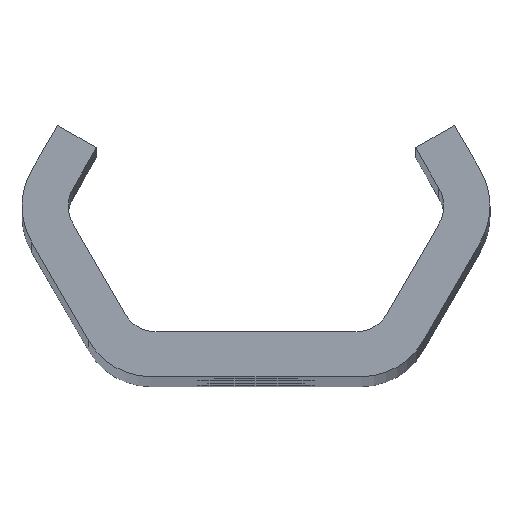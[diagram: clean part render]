
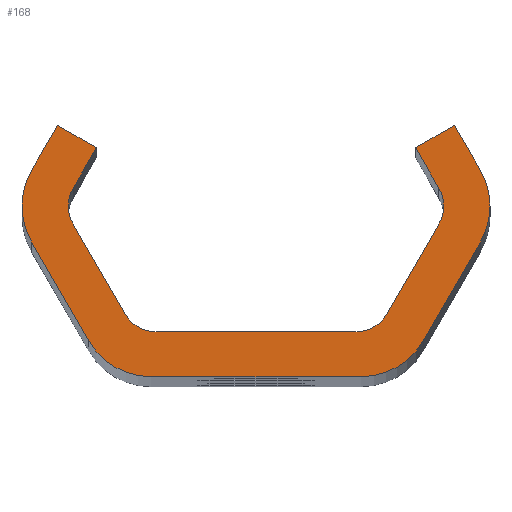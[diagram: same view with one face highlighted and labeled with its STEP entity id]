
A CAD part, top view. The second image highlights one B-rep face of the part: STEP entity #168.
In plain terms, the highlighted planar face has unit normal (0, 0, 1).
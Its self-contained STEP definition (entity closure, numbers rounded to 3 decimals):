
#168=ADVANCED_FACE('NONE',(#408),#409,.F.);
#408=FACE_OUTER_BOUND('',#1052,.T.);
#409=PLANE('',#1053);
#1052=EDGE_LOOP('',(#2046,#2047,#2048,#2049,#2050,#2051,#2052,#2053,#2054,#2055,#2056,#2057,#2058,#2059,#2060,#2061,#2062,#2063,#2064,#2065,#2066,#2067,#2068,#2069));
#1053=AXIS2_PLACEMENT_3D('',#2070,#2071,#2072);
#2046=ORIENTED_EDGE('',*,*,#2749,.T.);
#2047=ORIENTED_EDGE('',*,*,#2766,.T.);
#2048=ORIENTED_EDGE('',*,*,#2751,.T.);
#2049=ORIENTED_EDGE('',*,*,#2767,.T.);
#2050=ORIENTED_EDGE('',*,*,#2760,.F.);
#2051=ORIENTED_EDGE('',*,*,#2768,.T.);
#2052=ORIENTED_EDGE('',*,*,#2615,.T.);
#2053=ORIENTED_EDGE('',*,*,#2763,.F.);
#2054=ORIENTED_EDGE('',*,*,#2675,.F.);
#2055=ORIENTED_EDGE('',*,*,#2679,.F.);
#2056=ORIENTED_EDGE('',*,*,#2649,.T.);
#2057=ORIENTED_EDGE('',*,*,#2769,.T.);
#2058=ORIENTED_EDGE('',*,*,#2683,.F.);
#2059=ORIENTED_EDGE('',*,*,#2770,.T.);
#2060=ORIENTED_EDGE('',*,*,#2688,.F.);
#2061=ORIENTED_EDGE('',*,*,#2771,.T.);
#2062=ORIENTED_EDGE('',*,*,#2732,.T.);
#2063=ORIENTED_EDGE('',*,*,#2772,.T.);
#2064=ORIENTED_EDGE('',*,*,#2610,.T.);
#2065=ORIENTED_EDGE('',*,*,#2735,.T.);
#2066=ORIENTED_EDGE('',*,*,#2741,.T.);
#2067=ORIENTED_EDGE('',*,*,#2745,.T.);
#2068=ORIENTED_EDGE('',*,*,#2773,.T.);
#2069=ORIENTED_EDGE('',*,*,#2652,.T.);
#2070=CARTESIAN_POINT('',(0.0,0.0,320.0));
#2071=DIRECTION('',(0.0,0.0,-1.0));
#2072=DIRECTION('',(0.0,-1.0,0.0));
#2610=EDGE_CURVE('NONE',#2940,#2944,#2946,.T.);
#2615=EDGE_CURVE('NONE',#2949,#2953,#2955,.T.);
#2649=EDGE_CURVE('NONE',#3016,#3014,#3017,.T.);
#2652=EDGE_CURVE('NONE',#3020,#3021,#3022,.T.);
#2675=EDGE_CURVE('NONE',#3056,#3058,#3059,.T.);
#2679=EDGE_CURVE('NONE',#3016,#3056,#3063,.T.);
#2683=EDGE_CURVE('NONE',#3068,#3070,#3071,.T.);
#2688=EDGE_CURVE('NONE',#3077,#3079,#3080,.T.);
#2732=EDGE_CURVE('NONE',#3162,#3160,#3163,.T.);
#2735=EDGE_CURVE('NONE',#2944,#3166,#3167,.T.);
#2741=EDGE_CURVE('NONE',#3166,#3174,#3176,.T.);
#2745=EDGE_CURVE('NONE',#3174,#3180,#3182,.T.);
#2749=EDGE_CURVE('NONE',#3021,#3186,#3188,.T.);
#2751=EDGE_CURVE('NONE',#3190,#3191,#3192,.T.);
#2760=EDGE_CURVE('NONE',#3204,#3206,#3207,.T.);
#2763=EDGE_CURVE('NONE',#3058,#2953,#3210,.T.);
#2766=EDGE_CURVE('NONE',#3186,#3190,#3213,.T.);
#2767=EDGE_CURVE('NONE',#3191,#3206,#3214,.T.);
#2768=EDGE_CURVE('NONE',#3204,#2949,#3215,.T.);
#2769=EDGE_CURVE('NONE',#3014,#3070,#3216,.T.);
#2770=EDGE_CURVE('NONE',#3068,#3079,#3217,.T.);
#2771=EDGE_CURVE('NONE',#3077,#3162,#3218,.T.);
#2772=EDGE_CURVE('NONE',#3160,#2940,#3219,.T.);
#2773=EDGE_CURVE('NONE',#3180,#3020,#3220,.T.);
#2940=VERTEX_POINT('',#3432);
#2944=VERTEX_POINT('NONE',#3437);
#2946=CIRCLE('',#3440,2.0);
#2949=VERTEX_POINT('',#3443);
#2953=VERTEX_POINT('NONE',#3448);
#2955=CIRCLE('',#3451,4.0);
#3014=VERTEX_POINT('NONE',#3864);
#3016=VERTEX_POINT('NONE',#3867);
#3017=CIRCLE('',#3868,2.0);
#3020=VERTEX_POINT('NONE',#3872);
#3021=VERTEX_POINT('NONE',#3873);
#3022=CIRCLE('',#3874,4.0);
#3056=VERTEX_POINT('NONE',#3915);
#3058=VERTEX_POINT('NONE',#3918);
#3059=LINE('',#3919,#3920);
#3063=LINE('',#3926,#3927);
#3068=VERTEX_POINT('NONE',#3933);
#3070=VERTEX_POINT('NONE',#3936);
#3071=LINE('',#3937,#3938);
#3077=VERTEX_POINT('NONE',#3946);
#3079=VERTEX_POINT('NONE',#3949);
#3080=LINE('',#3950,#3951);
#3160=VERTEX_POINT('NONE',#4233);
#3162=VERTEX_POINT('NONE',#4236);
#3163=LINE('',#4237,#4238);
#3166=VERTEX_POINT('NONE',#4242);
#3167=LINE('',#4243,#4244);
#3174=VERTEX_POINT('NONE',#4254);
#3176=LINE('',#4257,#4258);
#3180=VERTEX_POINT('NONE',#4263);
#3182=LINE('',#4266,#4267);
#3186=VERTEX_POINT('NONE',#4272);
#3188=LINE('',#4275,#4276);
#3190=VERTEX_POINT('NONE',#4278);
#3191=VERTEX_POINT('NONE',#4279);
#3192=LINE('',#4280,#4281);
#3204=VERTEX_POINT('NONE',#4297);
#3206=VERTEX_POINT('NONE',#4300);
#3207=LINE('',#4301,#4302);
#3210=LINE('',#4306,#4307);
#3213=CIRCLE('',#4311,4.0);
#3214=CIRCLE('',#4312,4.0);
#3215=CIRCLE('',#4313,4.0);
#3216=CIRCLE('',#4314,2.0);
#3217=CIRCLE('',#4315,2.0);
#3218=CIRCLE('',#4316,2.0);
#3219=CIRCLE('',#4317,2.0);
#3220=CIRCLE('',#4318,4.0);
#3432=CARTESIAN_POINT('',(-10.455,0.,320.0));
#3437=CARTESIAN_POINT('',(-10.187,1.,320.0));
#3440=AXIS2_PLACEMENT_3D('',#4983,#4984,#4985);
#3443=CARTESIAN_POINT('',(13.032,0.,320.0));
#3448=CARTESIAN_POINT('',(12.496,2.,320.0));
#3451=AXIS2_PLACEMENT_3D('',#4991,#4992,#4993);
#3864=CARTESIAN_POINT('',(10.455,0.,320.0));
#3867=CARTESIAN_POINT('',(10.187,1.,320.0));
#3868=AXIS2_PLACEMENT_3D('',#5022,#5023,#5024);
#3872=CARTESIAN_POINT('',(-13.032,0.,320.0));
#3873=CARTESIAN_POINT('',(-12.496,-2.,320.0));
#3874=AXIS2_PLACEMENT_3D('',#5026,#5027,#5028);
#3915=CARTESIAN_POINT('',(8.888,3.25,320.0));
#3918=CARTESIAN_POINT('',(11.053,4.5,320.0));
#3919=CARTESIAN_POINT('',(8.888,3.25,320.0));
#3920=VECTOR('',#5064,1000.0);
#3926=CARTESIAN_POINT('',(10.764,0.,320.0));
#3927=VECTOR('',#5067,1000.0);
#3933=CARTESIAN_POINT('',(7.3,-6.,320.0));
#3936=CARTESIAN_POINT('',(10.187,-1.,320.0));
#3937=CARTESIAN_POINT('',(6.723,-7.0,320.0));
#3938=VECTOR('',#5070,1000.0);
#3946=CARTESIAN_POINT('',(-5.568,-7.0,320.0));
#3949=CARTESIAN_POINT('',(5.568,-7.0,320.0));
#3950=CARTESIAN_POINT('',(-6.723,-7.0,320.0));
#3951=VECTOR('',#5074,1000.0);
#4233=CARTESIAN_POINT('',(-10.187,-1.,320.0));
#4236=CARTESIAN_POINT('',(-7.3,-6.,320.0));
#4237=CARTESIAN_POINT('',(-6.723,-7.0,320.0));
#4238=VECTOR('',#5117,1000.0);
#4242=CARTESIAN_POINT('',(-8.888,3.25,320.0));
#4243=CARTESIAN_POINT('',(-10.764,0.0,320.0));
#4244=VECTOR('',#5119,1000.0);
#4254=CARTESIAN_POINT('',(-11.053,4.5,320.0));
#4257=CARTESIAN_POINT('',(-8.888,3.25,320.0));
#4258=VECTOR('',#5124,1000.0);
#4263=CARTESIAN_POINT('',(-12.496,2.0,320.0));
#4266=CARTESIAN_POINT('',(-11.053,4.5,320.0));
#4267=VECTOR('',#5127,1000.0);
#4272=CARTESIAN_POINT('',(-9.321,-7.5,320.0));
#4275=CARTESIAN_POINT('',(-13.651,0.0,320.0));
#4276=VECTOR('',#5130,1000.0);
#4278=CARTESIAN_POINT('',(-5.857,-9.5,320.0));
#4279=CARTESIAN_POINT('',(5.857,-9.5,320.0));
#4280=CARTESIAN_POINT('',(-8.166,-9.5,320.0));
#4281=VECTOR('',#5131,1000.0);
#4297=CARTESIAN_POINT('',(12.496,-2.,320.0));
#4300=CARTESIAN_POINT('',(9.321,-7.5,320.0));
#4301=CARTESIAN_POINT('',(13.651,0.,320.0));
#4302=VECTOR('',#5143,1000.0);
#4306=CARTESIAN_POINT('',(11.053,4.5,320.0));
#4307=VECTOR('',#5145,1000.0);
#4311=AXIS2_PLACEMENT_3D('',#5147,#5148,#5149);
#4312=AXIS2_PLACEMENT_3D('',#5150,#5151,#5152);
#4313=AXIS2_PLACEMENT_3D('',#5153,#5154,#5155);
#4314=AXIS2_PLACEMENT_3D('',#5156,#5157,#5158);
#4315=AXIS2_PLACEMENT_3D('',#5159,#5160,#5161);
#4316=AXIS2_PLACEMENT_3D('',#5162,#5163,#5164);
#4317=AXIS2_PLACEMENT_3D('',#5165,#5166,#5167);
#4318=AXIS2_PLACEMENT_3D('',#5168,#5169,#5170);
#4983=CARTESIAN_POINT('',(-8.455,0.,320.0));
#4984=DIRECTION('',(0.0,0.0,-1.0));
#4985=DIRECTION('',(-1.0,0.0,0.0));
#4991=CARTESIAN_POINT('',(9.032,0.,320.0));
#4992=DIRECTION('',(0.0,0.0,1.0));
#4993=DIRECTION('',(-1.0,0.0,0.0));
#5022=CARTESIAN_POINT('',(8.455,0.,320.0));
#5023=DIRECTION('',(0.0,0.0,-1.0));
#5024=DIRECTION('',(-1.0,0.0,0.0));
#5026=CARTESIAN_POINT('',(-9.032,0.,320.0));
#5027=DIRECTION('',(0.0,0.0,1.0));
#5028=DIRECTION('',(-1.0,0.0,0.0));
#5064=DIRECTION('',(0.866,0.5,0.0));
#5067=DIRECTION('',(-0.5,0.866,0.0));
#5070=DIRECTION('',(0.5,0.866,0.0));
#5074=DIRECTION('',(1.0,0.,0.0));
#5117=DIRECTION('',(-0.5,0.866,0.0));
#5119=DIRECTION('',(0.5,0.866,0.0));
#5124=DIRECTION('',(-0.866,0.5,0.0));
#5127=DIRECTION('',(-0.5,-0.866,0.0));
#5130=DIRECTION('',(0.5,-0.866,0.0));
#5131=DIRECTION('',(1.0,0.,0.0));
#5143=DIRECTION('',(-0.5,-0.866,0.0));
#5145=DIRECTION('',(0.5,-0.866,0.0));
#5147=CARTESIAN_POINT('',(-5.857,-5.5,320.0));
#5148=DIRECTION('',(0.0,0.0,1.0));
#5149=DIRECTION('',(-1.0,0.0,0.0));
#5150=CARTESIAN_POINT('',(5.857,-5.5,320.0));
#5151=DIRECTION('',(0.0,0.0,1.0));
#5152=DIRECTION('',(-1.0,0.0,0.0));
#5153=CARTESIAN_POINT('',(9.032,0.,320.0));
#5154=DIRECTION('',(0.0,0.0,1.0));
#5155=DIRECTION('',(-1.0,0.0,0.0));
#5156=CARTESIAN_POINT('',(8.455,0.,320.0));
#5157=DIRECTION('',(0.0,0.0,-1.0));
#5158=DIRECTION('',(-1.0,0.0,0.0));
#5159=CARTESIAN_POINT('',(5.568,-5.0,320.0));
#5160=DIRECTION('',(0.0,0.0,-1.0));
#5161=DIRECTION('',(-1.0,0.0,0.0));
#5162=CARTESIAN_POINT('',(-5.568,-5.0,320.0));
#5163=DIRECTION('',(0.0,0.0,-1.0));
#5164=DIRECTION('',(-1.0,0.0,0.0));
#5165=CARTESIAN_POINT('',(-8.455,0.,320.0));
#5166=DIRECTION('',(0.0,0.0,-1.0));
#5167=DIRECTION('',(-1.0,0.0,0.0));
#5168=CARTESIAN_POINT('',(-9.032,0.,320.0));
#5169=DIRECTION('',(0.0,0.0,1.0));
#5170=DIRECTION('',(-1.0,0.,0.0));
